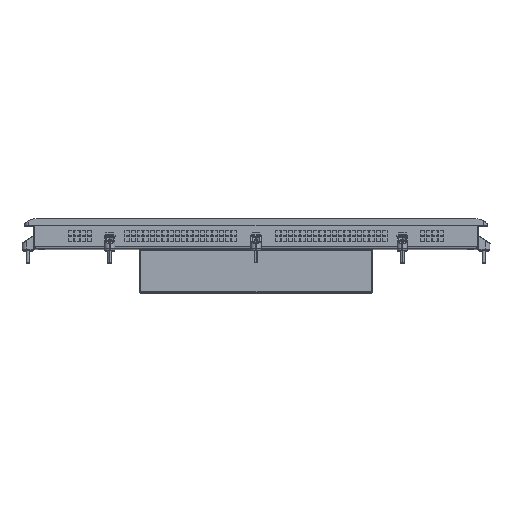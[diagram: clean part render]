
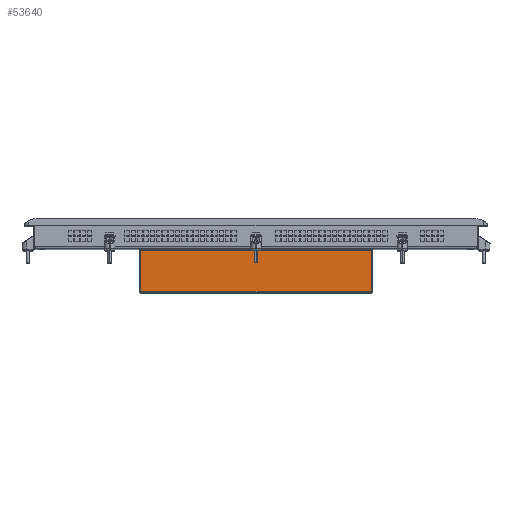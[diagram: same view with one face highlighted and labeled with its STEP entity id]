
A CAD part, top view. The second image highlights one B-rep face of the part: STEP entity #53640.
In plain terms, the highlighted planar face has unit normal (0, 0, 1) as drawn and (0, 1, 0) by its records, which use the part's own axes.
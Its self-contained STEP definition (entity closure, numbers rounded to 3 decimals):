
#2008 = PLANE ( 'NONE',  #318504 ) ;
#43732 = VECTOR ( 'NONE', #186715, 1000. ) ;
#45796 = FACE_OUTER_BOUND ( 'NONE', #148021, .T. ) ;
#50108 = VECTOR ( 'NONE', #290952, 1000. ) ;
#53640 = ADVANCED_FACE ( 'NONE', ( #45796 ), #2008, .T. ) ;
#94304 = ORIENTED_EDGE ( 'NONE', *, *, #160885, .T. ) ;
#97995 = CARTESIAN_POINT ( 'NONE',  ( -2.38, 127.571, -7.6 ) ) ;
#108229 = ORIENTED_EDGE ( 'NONE', *, *, #307293, .T. ) ;
#108511 = VECTOR ( 'NONE', #272457, 1000. ) ;
#111274 = CARTESIAN_POINT ( 'NONE',  ( 193.32, 127.571, 26.5 ) ) ;
#111353 = CARTESIAN_POINT ( 'NONE',  ( 193.32, 127.571, -9.2 ) ) ;
#112686 = LINE ( 'NONE', #220534, #302153 ) ;
#118729 = LINE ( 'NONE', #264947, #50108 ) ;
#124131 = EDGE_CURVE ( 'NONE', #289837, #192866, #118729, .T. ) ;
#133877 = DIRECTION ( 'NONE',  ( 0., 0., 1. ) ) ;
#148021 = EDGE_LOOP ( 'NONE', ( #94304, #108229, #227677, #316206 ) ) ;
#148269 = VERTEX_POINT ( 'NONE', #204524 ) ;
#152027 = VERTEX_POINT ( 'NONE', #97995 ) ;
#160885 = EDGE_CURVE ( 'NONE', #152027, #148269, #112686, .T. ) ;
#186715 = DIRECTION ( 'NONE',  ( 1., 0., 0. ) ) ;
#192866 = VERTEX_POINT ( 'NONE', #227107 ) ;
#198457 = CARTESIAN_POINT ( 'NONE',  ( 192.52, 127.571, 26.5 ) ) ;
#204524 = CARTESIAN_POINT ( 'NONE',  ( -2.38, 127.571, 26.5 ) ) ;
#210447 = DIRECTION ( 'NONE',  ( 0., 1., 0. ) ) ;
#220534 = CARTESIAN_POINT ( 'NONE',  ( -2.38, 127.571, -9.2 ) ) ;
#223844 = DIRECTION ( 'NONE',  ( 0., 0., 1. ) ) ;
#227107 = CARTESIAN_POINT ( 'NONE',  ( 192.52, 127.571, -7.6 ) ) ;
#227677 = ORIENTED_EDGE ( 'NONE', *, *, #124131, .T. ) ;
#245441 = LINE ( 'NONE', #326618, #108511 ) ;
#250074 = EDGE_CURVE ( 'NONE', #192866, #152027, #245441, .T. ) ;
#264947 = CARTESIAN_POINT ( 'NONE',  ( 192.52, 127.571, -9.2 ) ) ;
#272457 = DIRECTION ( 'NONE',  ( -1., 0., 0. ) ) ;
#281709 = LINE ( 'NONE', #111274, #43732 ) ;
#289837 = VERTEX_POINT ( 'NONE', #198457 ) ;
#290952 = DIRECTION ( 'NONE',  ( 0., 0., -1. ) ) ;
#302153 = VECTOR ( 'NONE', #223844, 1000. ) ;
#307293 = EDGE_CURVE ( 'NONE', #148269, #289837, #281709, .T. ) ;
#316206 = ORIENTED_EDGE ( 'NONE', *, *, #250074, .T. ) ;
#318504 = AXIS2_PLACEMENT_3D ( 'NONE', #111353, #210447, #133877 ) ;
#326618 = CARTESIAN_POINT ( 'NONE',  ( 193.32, 127.571, -7.6 ) ) ;
